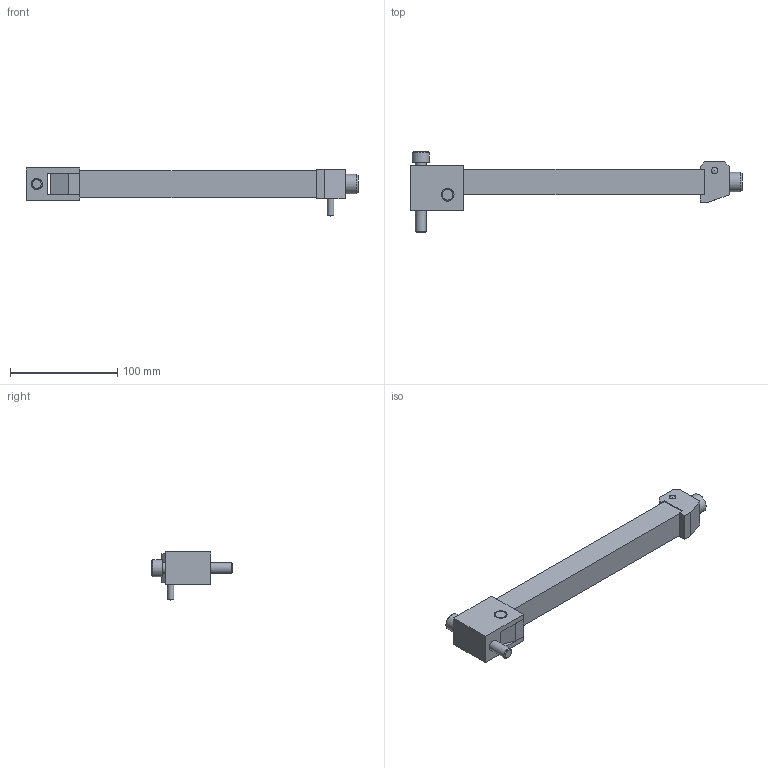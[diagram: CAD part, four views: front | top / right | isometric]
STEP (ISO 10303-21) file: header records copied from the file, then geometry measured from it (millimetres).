
FILE_DESCRIPTION( ( 'STEP AP214' ), '1' );
FILE_NAME( 'p:/temp/worker_5/temp/exporttempdir_4160_194_8uCN9/format_0/ZH903.stp', '2021-02-11T19:23:37', ( 'License CC BY-ND 4.0' ), ( 'CADENAS' ), ' ', 'PARTsolutions', ' ' );
FILE_SCHEMA( ( 'AUTOMOTIVE_DESIGN { 1 0 10303 214 1 1 1 1 }' ) );
Length unit declared in the file: millimetre
Products named in the file (9): ZH903; _ZH90/3_head; _ZH90/3_screw1; _ZH90/3_hand; _ZH90/3_screw2; _ZH90/3_he; _ZH90/3_screw3; _ZH90/3_stift1; _ZH90/3_stift2
Assembly tree (8 placements, depth 2):
  ZH903
    _ZH90/3_head
    _ZH90/3_screw1
    _ZH90/3_hand
    _ZH90/3_screw2
    _ZH90/3_he
    _ZH90/3_screw3
    _ZH90/3_stift1
    _ZH90/3_stift2
Bounding box: 309 x 75 x 44.7 mm (x, y, z)
Volume: 212131.9 mm3; surface area: 56527.6 mm2
Topology: 8 solids, 8 shells, 95 faces, 218 edges, 142 vertices
Faces by surface type: plane 67, cylinder 15, cone 11, sphere 2
Full cylindrical faces by diameter (mm): 4.134 x1, 5 x1, 6 x2, 10 x1, 10.106 x1, 10.5 x1, 12 x5, 13 x1, 16 x1, 18 x1
Entity records: 3438 total; most frequent: CARTESIAN_POINT 474, DIRECTION 428, ORIENTED_EDGE 364, EDGE_CURVE 182, AXIS2_PLACEMENT_3D 143, LINE 142, VECTOR 142, EDGE_LOOP 140
